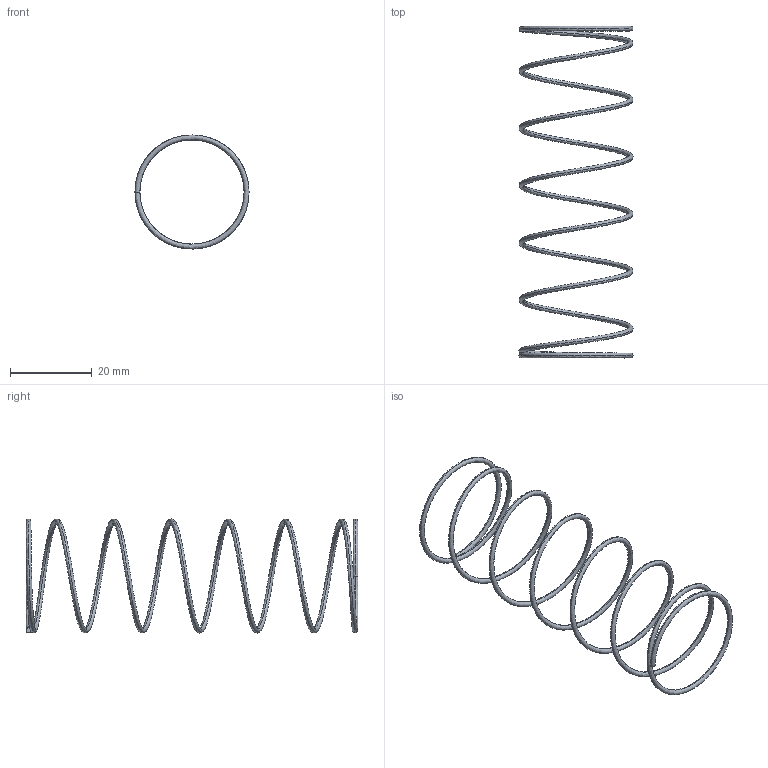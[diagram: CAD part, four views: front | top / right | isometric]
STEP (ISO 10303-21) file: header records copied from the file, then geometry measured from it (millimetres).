
FILE_DESCRIPTION(/* description */ ('Impex Ready, www.impex-ready.pl'),/* implementation_level */ '2;1');
FILE_NAME(/* name */ 'C:\Users\VIKKY\Nextcloud\SM\projekt 10 - części na stronę internetową\Pliki_3D_new\284 Sprężyny SPK\284_Spreżyny_SPK_STEP\SPK25080.ipt.step',/* time_stamp */ '2021-12-17T12:59:21+01:00',/* author */ ('SM'),/* organization */ (''),/* preprocessor_version */ 'ST-DEVELOPER v18.1',/* originating_system */ 'Autodesk Inventor 2021',/* authorisation */ '');
FILE_SCHEMA (('AUTOMOTIVE_DESIGN { 1 0 10303 214 3 1 1 }'));
Length unit declared in the file: millimetre
Products named in the file (1): SPK25080
Bounding box: 27.9 x 81.2 x 27.9 mm (x, y, z)
Volume: 736.1 mm3; surface area: 2468.4 mm2
Topology: 1 solids, 1 shells, 4 faces, 12 edges, 8 vertices
Faces by surface type: bspline 2, plane 2
Entity records: 2046 total; most frequent: CARTESIAN_POINT 1907, ORIENTED_EDGE 24, EDGE_CURVE 12, DIRECTION 12, B_SPLINE_CURVE_WITH_KNOTS 9, VERTEX_POINT 8, EDGE_LOOP 6, AXIS2_PLACEMENT_3D 6
